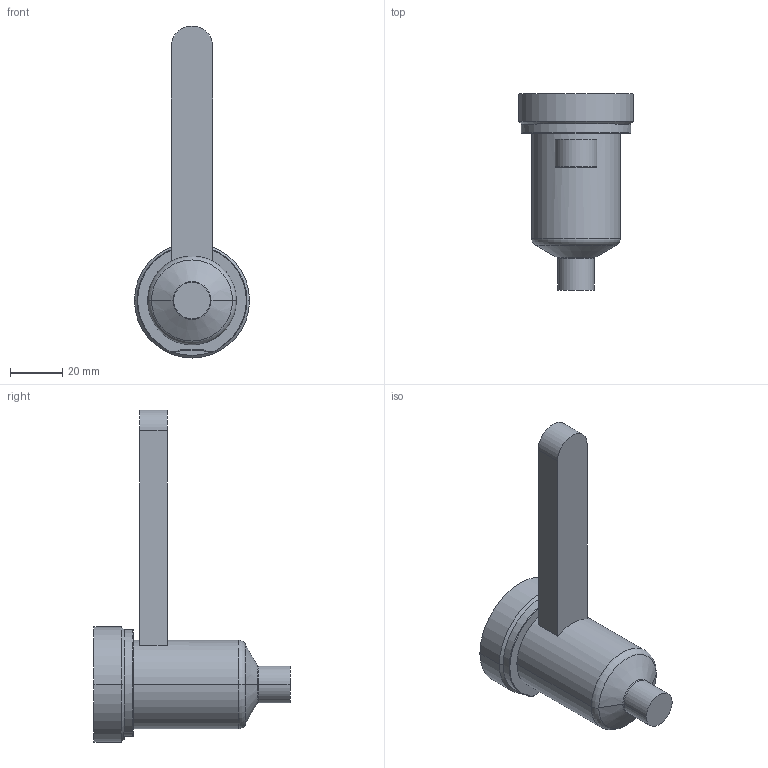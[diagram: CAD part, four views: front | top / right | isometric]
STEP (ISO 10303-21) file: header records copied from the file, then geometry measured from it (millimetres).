
FILE_DESCRIPTION((''),'2;1');
FILE_NAME('EO10_VG-ST_ESG_050_COT','2024-02-19T12:47:27',('sundharh'),(''),'CREO PARAMETRIC BY PTC INC, 2023154','CREO PARAMETRIC BY PTC INC, 2023154','');
FILE_SCHEMA(('CONFIG_CONTROL_DESIGN'));
Length unit declared in the file: millimetre
Products named in the file (1): EO10_VG-ST_ESG_050_COT
Bounding box: 44 x 75 x 127 mm (x, y, z)
Volume: 79491.7 mm3; surface area: 14691.9 mm2
Topology: 1 solids, 1 shells, 31 faces, 67 edges, 40 vertices
Faces by surface type: cylinder 11, plane 9, torus 7, cone 4
Entity records: 959 total; most frequent: CARTESIAN_POINT 226, DIRECTION 159, ORIENTED_EDGE 134, AXIS2_PLACEMENT_3D 67, EDGE_CURVE 67, VERTEX_POINT 40, CIRCLE 36, EDGE_LOOP 33
